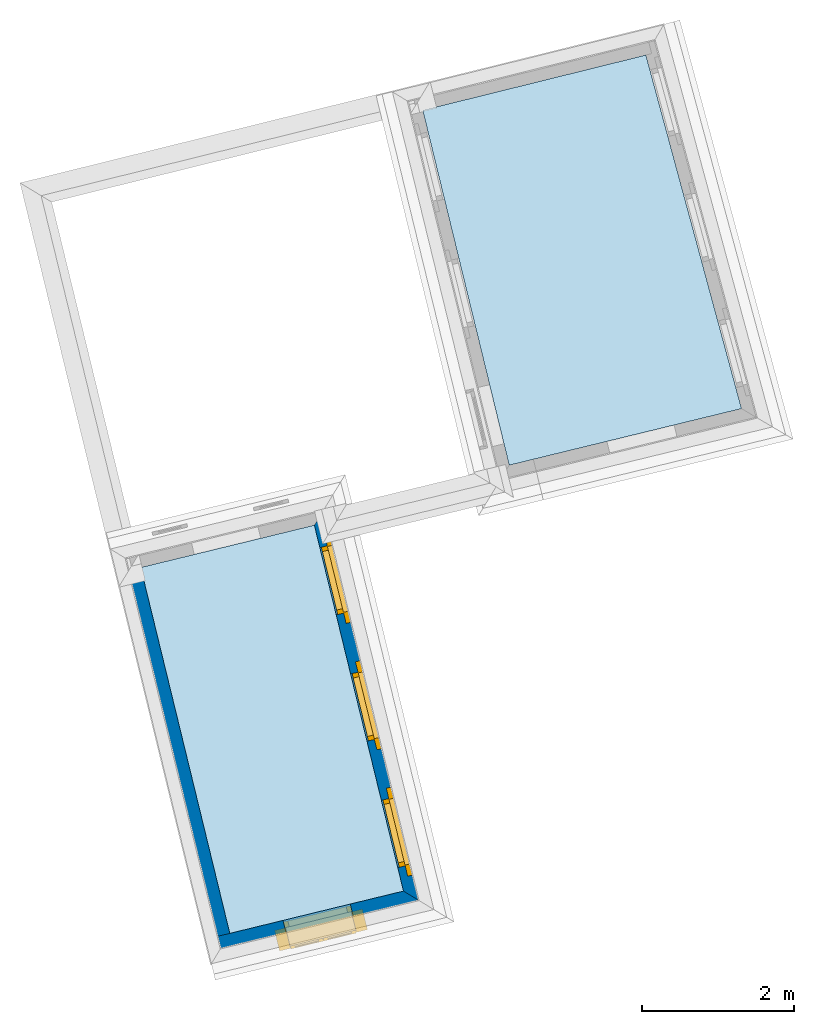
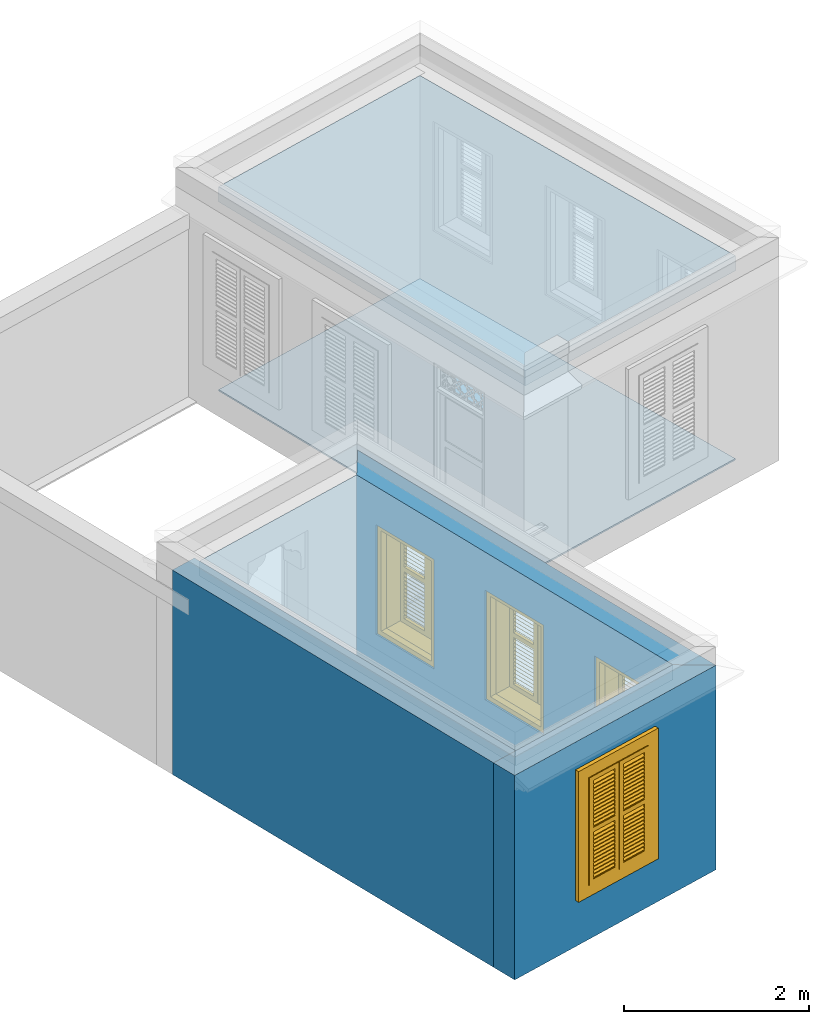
# One storey, part 1 of 7: 4 windows, 3 slabs, 3 walls, 4 openings.
"""IFC4 building model written with IfcOpenShell, lengths in metres."""

from ifc_helpers import new_model, si_unit, frame, origin, origin_with_axes, place, context, subcontext, project, spatial, polyline, outline, extrude, faceted_brep, source, transform, mapped, material, layer, layer_set, layer_usage, type_object, type_shapes, element, fill, save


model = new_model("IFC4")

# Units and contexts
model_context = context("Model", 3, world=origin_with_axes())
body_context = subcontext(model_context, "Body", "Model", "MODEL_VIEW")
ifc_project = project(units=[si_unit("PLANEANGLEUNIT", "RADIAN"), si_unit("MASSUNIT", "GRAM", prefix="KILO"), si_unit("FORCEUNIT", "NEWTON", prefix="KILO"), si_unit("LENGTHUNIT", "METRE"), si_unit("AREAUNIT", "SQUARE_METRE"), si_unit("VOLUMEUNIT", "CUBIC_METRE")], contexts=[model_context, model_context])

# Site, building, storey
site_placement = place(None, origin_with_axes())
site = spatial("IfcSite", under=ifc_project, at=site_placement, Name="Site plot-4", CompositionType="ELEMENT")
building_placement = place(None, origin_with_axes())
building = spatial("IfcBuilding", under=site, at=building_placement, Name="Building plot-4", CompositionType="ELEMENT")
storey_placement = place(None, frame((0.0, 0.0, 5.4), z_axis=(0.0, 0.0, 1.0), x_axis=(1.0, 0.0, 0.0)))
storey = spatial("IfcBuildingStorey", under=building, at=storey_placement, Name="plot-4 2", CompositionType="ELEMENT", Elevation=5.4)

# Slabs
slab_1_placement = place(storey_placement, frame((22.3297005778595, 20.3816846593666, 2.5)))
element("IfcSlab", 1, at=slab_1_placement, inside=storey, Name="My Slab", ObjectType="Slab", PredefinedType="FLOOR", context=body_context, shape_type="SweptSolid", body=[
    extrude(outline(polyline([(0.0, 0.0), (1.13606950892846, -4.66513942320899), (4.18996666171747, -3.92144472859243), (2.93260132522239, 0.725816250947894), (0.0, 0.0)])), origin_with_axes(), (0.0, 0.0, 1.0), 0.2),
])
slab_2_placement = place(storey_placement, frame((22.3297005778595, 20.3816846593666, 0.0)))
element("IfcSlab", 2, at=slab_2_placement, inside=storey, Name="My Slab", ObjectType="Slab", PredefinedType="FLOOR", context=body_context, shape_type="SweptSolid", body=[
    extrude(outline(polyline([(0.0, 0.0), (1.13606950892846, -4.66513942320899), (4.18996666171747, -3.92144472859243), (2.93260132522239, 0.725816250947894), (0.0, 0.0)])), origin_with_axes(), (0.0, 0.0, 1.0), 0.02),
])
slab_3_placement = place(storey_placement, frame((19.7935242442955, 9.56317406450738, 2.5)))
element("IfcSlab", 3, at=slab_3_placement, inside=storey, Name="My Slab", ObjectType="Slab", PredefinedType="FLOOR", context=body_context, shape_type="SweptSolid", body=[
    extrude(outline(polyline([(0.0, 0.0), (2.28328997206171, 0.556033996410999), (1.11213475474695, 5.3652488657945), (-1.17115521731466, 4.80921486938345), (0.0, 0.0)])), origin_with_axes(), (0.0, 0.0, 1.0), 0.2),
])

# Wall, opening, window
ifc_material_1 = material(Name="Masonry")
ifc_layer_1 = layer(ifc_material_1, 0.33, ventilated=False)
ifc_layer_set_1 = layer_set([ifc_layer_1], Name="exterior_0.08_0.25")
ifc_layer_usage_1 = layer_usage(ifc_layer_set_1, "AXIS2", "POSITIVE", -0.25)
wall_type_1 = type_object("IfcWallType", Name="exterior_0.08_0.25", PredefinedType="SOLIDWALL", material=ifc_layer_set_1)
wall_1_placement = place(storey_placement, frame((19.7347245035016, 9.46651698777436, 0.0), z_axis=(0.0, 0.0, 1.0), x_axis=(0.971605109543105, 0.236608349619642, 0.0)))
wall_1 = element("IfcWall", 4, at=wall_1_placement, inside=storey, type_object=wall_type_1, material=ifc_layer_usage_1, Name="exterior", context=body_context, shape_type="SweptSolid", body=[
    extrude(outline(polyline([(-0.250000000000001, 0.0799999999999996), (-0.25, -0.250000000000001), (2.7600184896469, -0.250000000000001), (2.43001848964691, 0.0800000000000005), (-0.250000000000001, 0.0799999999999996)])), origin_with_axes(), (0.0, 0.0, 1.0), 2.7),
])
opening_1_placement = place(wall_1_placement, frame((0.800009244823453, 0.0, 0.75)))
opening_1 = element("IfcOpeningElement", 5, at=opening_1_placement, cuts=wall_1, Name="My Opening", ObjectType="Opening", context=body_context, shape_type="SweptSolid", body=[
    extrude(outline(polyline([(0.0, -0.27), (0.91, -0.270000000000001), (0.909999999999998, 1.1), (-1.55431223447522e-15, 1.1), (0.0, -0.27)])), origin_with_axes(), (0.0, 0.0, 1.0), 1.445),
])
window_type = type_object("IfcWindowType", Name="shuttered_shorter", PartitioningType="DOUBLE_PANEL_HORIZONTAL", PredefinedType="NOTDEFINED")
shared_shape = source(origin(), body_context, "Body", "Brep", [
    faceted_brep([(0.393, 0.0, 0.622), (0.074, 0.0, 0.622), (0.074, 0.0, 0.632), (0.393, 0.0, 0.632), (0.074, -0.04, 0.592), (0.393, -0.04, 0.592), (0.393, -0.04, 0.582), (0.074, -0.04, 0.582), (0.517, 0.0, 0.682), (0.836, 0.0, 0.682), (0.836, 0.0, 0.672), (0.517, 0.0, 0.672), (0.517, -0.04, 0.642), (0.836, -0.04, 0.642), (0.836, -0.04, 0.632), (0.517, -0.04, 0.632), (0.517, 0.0, 0.632), (0.836, 0.0, 0.632), (0.836, 0.0, 0.622), (0.517, 0.0, 0.622), (0.517, -0.04, 0.592), (0.836, -0.04, 0.592), (0.836, -0.04, 0.582), (0.517, -0.04, 0.582), (0.517, 0.0, 0.232), (0.836, 0.0, 0.232), (0.836, 0.0, 0.222), (0.517, 0.0, 0.222), (0.517, -0.04, 0.192), (0.836, -0.04, 0.192), (0.836, -0.04, 0.182), (0.517, -0.04, 0.182), (0.517, 0.0, 0.532), (0.836, 0.0, 0.532), (0.836, 0.0, 0.522), (0.517, 0.0, 0.522), (0.517, -0.04, 0.492), (0.836, -0.04, 0.492), (0.836, -0.04, 0.482), (0.517, -0.04, 0.482), (0.517, 0.0, 0.482), (0.836, 0.0, 0.482), (0.836, 0.0, 0.472), (0.517, 0.0, 0.472), (0.517, -0.04, 0.442), (0.836, -0.04, 0.442), (0.836, -0.04, 0.432), (0.517, -0.04, 0.432), (0.517, 0.0, 0.582), (0.836, 0.0, 0.582), (0.836, 0.0, 0.572), (0.517, 0.0, 0.572), (0.517, -0.04, 0.542), (0.836, -0.04, 0.542), (0.836, -0.04, 0.532), (0.517, -0.04, 0.532), (0.517, 0.0, 0.182), (0.836, 0.0, 0.182), (0.836, 0.0, 0.172), (0.517, 0.0, 0.172), (0.517, -0.04, 0.142), (0.836, -0.04, 0.142), (0.836, -0.04, 0.132), (0.517, -0.04, 0.132), (0.517, 0.0, 0.382), (0.836, 0.0, 0.382), (0.836, 0.0, 0.372), (0.517, 0.0, 0.372), (0.517, -0.04, 0.342), (0.836, -0.04, 0.342), (0.836, -0.04, 0.332), (0.517, -0.04, 0.332), (0.517, 0.0, 0.432), (0.836, 0.0, 0.432), (0.836, 0.0, 0.422), (0.517, 0.0, 0.422), (0.517, -0.04, 0.392), (0.836, -0.04, 0.392), (0.836, -0.04, 0.382), (0.517, -0.04, 0.382), (0.517, 0.0, 0.132), (0.836, 0.0, 0.132), (0.836, 0.0, 0.122), (0.517, 0.0, 0.122), (0.517, -0.04, 0.092), (0.836, -0.04, 0.092), (0.836, -0.04, 0.082), (0.517, -0.04, 0.082), (0.517, 0.0, 0.282), (0.836, 0.0, 0.282), (0.836, 0.0, 0.272), (0.517, 0.0, 0.272), (0.517, -0.04, 0.242), (0.836, -0.04, 0.242), (0.836, -0.04, 0.232), (0.517, -0.04, 0.232), (0.517, 0.0, 0.332), (0.836, 0.0, 0.332), (0.836, 0.0, 0.322), (0.517, 0.0, 0.322), (0.517, -0.04, 0.292), (0.836, -0.04, 0.292), (0.836, -0.04, 0.282), (0.517, -0.04, 0.282), (0.517, 0.0, 1.362667), (0.836, 0.0, 1.362667), (0.836, 0.0, 1.352667), (0.517, 0.0, 1.352667), (0.517, -0.04, 1.322667), (0.836, -0.04, 1.322667), (0.836, -0.04, 1.312667), (0.517, -0.04, 1.312667), (0.517, 0.0, 1.312667), (0.836, 0.0, 1.312667), (0.836, 0.0, 1.302667), (0.517, 0.0, 1.302667), (0.517, -0.04, 1.272667), (0.836, -0.04, 1.272667), (0.836, -0.04, 1.262667), (0.517, -0.04, 1.262667), (0.517, 0.0, 0.912667), (0.836, 0.0, 0.912667), (0.836, 0.0, 0.902667), (0.517, 0.0, 0.902667), (0.517, -0.04, 0.872667), (0.836, -0.04, 0.872667), (0.836, -0.04, 0.862667), (0.517, -0.04, 0.862667), (0.517, 0.0, 1.212667), (0.836, 0.0, 1.212667), (0.836, 0.0, 1.202667), (0.517, 0.0, 1.202667), (0.517, -0.04, 1.172667), (0.836, -0.04, 1.172667), (0.836, -0.04, 1.162667), (0.517, -0.04, 1.162667), (0.517, 0.0, 1.162667), (0.836, 0.0, 1.162667), (0.836, 0.0, 1.152667), (0.517, 0.0, 1.152667), (0.517, -0.04, 1.122667), (0.836, -0.04, 1.122667), (0.836, -0.04, 1.112667), (0.517, -0.04, 1.112667), (0.517, 0.0, 1.262667), (0.836, 0.0, 1.262667), (0.836, 0.0, 1.252667), (0.517, 0.0, 1.252667), (0.517, -0.04, 1.222667), (0.836, -0.04, 1.222667), (0.836, -0.04, 1.212667), (0.517, -0.04, 1.212667), (0.517, 0.0, 0.862667), (0.836, 0.0, 0.862667), (0.836, 0.0, 0.852667), (0.517, 0.0, 0.852667), (0.517, -0.04, 0.822667), (0.836, -0.04, 0.822667), (0.836, -0.04, 0.812667), (0.517, -0.04, 0.812667), (0.517, 0.0, 1.062667), (0.836, 0.0, 1.062667), (0.836, 0.0, 1.052667), (0.517, 0.0, 1.052667), (0.517, -0.04, 1.022667), (0.836, -0.04, 1.022667), (0.836, -0.04, 1.012667), (0.517, -0.04, 1.012667), (0.517, 0.0, 1.112667), (0.836, 0.0, 1.112667), (0.836, 0.0, 1.102667), (0.517, 0.0, 1.102667), (0.517, -0.04, 1.072667), (0.836, -0.04, 1.072667), (0.836, -0.04, 1.062667), (0.517, -0.04, 1.062667), (0.517, 0.0, 0.812667), (0.836, 0.0, 0.812667), (0.836, 0.0, 0.802667), (0.517, 0.0, 0.802667), (0.517, -0.04, 0.772667), (0.836, -0.04, 0.772667), (0.836, -0.04, 0.762667), (0.517, -0.04, 0.762667), (0.517, 0.0, 0.962667), (0.836, 0.0, 0.962667), (0.836, 0.0, 0.952667), (0.517, 0.0, 0.952667), (0.517, -0.04, 0.922667), (0.836, -0.04, 0.922667), (0.836, -0.04, 0.912667), (0.517, -0.04, 0.912667), (0.517, 0.0, 1.012667), (0.836, 0.0, 1.012667), (0.836, 0.0, 1.002667), (0.517, 0.0, 1.002667), (0.517, -0.04, 0.972667), (0.836, -0.04, 0.972667), (0.836, -0.04, 0.962667), (0.517, -0.04, 0.962667), (0.074, 0.0, 0.682), (0.393, 0.0, 0.682), (0.393, 0.0, 0.672), (0.074, 0.0, 0.672), (0.074, -0.04, 0.642), (0.393, -0.04, 0.642), (0.393, -0.04, 0.632), (0.074, -0.04, 0.632), (0.074, 0.0, 0.232), (0.393, 0.0, 0.232), (0.393, 0.0, 0.222), (0.074, 0.0, 0.222), (0.074, -0.04, 0.192), (0.393, -0.04, 0.192), (0.393, -0.04, 0.182), (0.074, -0.04, 0.182), (0.074, 0.0, 0.532), (0.393, 0.0, 0.532), (0.393, 0.0, 0.522), (0.074, 0.0, 0.522), (0.074, -0.04, 0.492), (0.393, -0.04, 0.492), (0.393, -0.04, 0.482), (0.074, -0.04, 0.482), (0.074, 0.0, 0.482), (0.393, 0.0, 0.482), (0.393, 0.0, 0.472), (0.074, 0.0, 0.472), (0.074, -0.04, 0.442), (0.393, -0.04, 0.442), (0.393, -0.04, 0.432), (0.074, -0.04, 0.432), (0.074, 0.0, 0.582), (0.393, 0.0, 0.582), (0.393, 0.0, 0.572), (0.074, 0.0, 0.572), (0.074, -0.04, 0.542), (0.393, -0.04, 0.542), (0.393, -0.04, 0.532), (0.074, -0.04, 0.532), (0.074, 0.0, 0.182), (0.393, 0.0, 0.182), (0.393, 0.0, 0.172), (0.074, 0.0, 0.172), (0.074, -0.04, 0.142), (0.393, -0.04, 0.142), (0.393, -0.04, 0.132), (0.074, -0.04, 0.132), (0.074, 0.0, 0.382), (0.393, 0.0, 0.382), (0.393, 0.0, 0.372), (0.074, 0.0, 0.372), (0.074, -0.04, 0.342), (0.393, -0.04, 0.342), (0.393, -0.04, 0.332), (0.074, -0.04, 0.332), (0.074, 0.0, 0.432), (0.393, 0.0, 0.432), (0.393, 0.0, 0.422), (0.074, 0.0, 0.422), (0.074, -0.04, 0.392), (0.393, -0.04, 0.392), (0.393, -0.04, 0.382), (0.074, -0.04, 0.382), (0.074, 0.0, 0.132), (0.393, 0.0, 0.132), (0.393, 0.0, 0.122), (0.074, 0.0, 0.122), (0.074, -0.04, 0.092), (0.393, -0.04, 0.092), (0.393, -0.04, 0.082), (0.074, -0.04, 0.082), (0.074, 0.0, 0.282), (0.393, 0.0, 0.282), (0.393, 0.0, 0.272), (0.074, 0.0, 0.272), (0.074, -0.04, 0.242), (0.393, -0.04, 0.242), (0.393, -0.04, 0.232), (0.074, -0.04, 0.232), (0.074, 0.0, 0.332), (0.393, 0.0, 0.332), (0.393, 0.0, 0.322), (0.074, 0.0, 0.322), (0.074, -0.04, 0.292), (0.393, -0.04, 0.292), (0.393, -0.04, 0.282), (0.074, -0.04, 0.282), (0.074, 0.0, 1.362667), (0.393, 0.0, 1.362667), (0.393, 0.0, 1.352667), (0.074, 0.0, 1.352667), (0.074, -0.04, 1.322667), (0.393, -0.04, 1.322667), (0.393, -0.04, 1.312667), (0.074, -0.04, 1.312667), (0.074, 0.0, 1.312667), (0.393, 0.0, 1.312667), (0.393, 0.0, 1.302667), (0.074, 0.0, 1.302667), (0.074, -0.04, 1.272667), (0.393, -0.04, 1.272667), (0.393, -0.04, 1.262667), (0.074, -0.04, 1.262667), (0.074, 0.0, 0.912667), (0.393, 0.0, 0.912667), (0.393, 0.0, 0.902667), (0.074, 0.0, 0.902667), (0.074, -0.04, 0.872667), (0.393, -0.04, 0.872667), (0.393, -0.04, 0.862667), (0.074, -0.04, 0.862667), (0.074, 0.0, 1.212667), (0.393, 0.0, 1.212667), (0.393, 0.0, 1.202667), (0.074, 0.0, 1.202667), (0.074, -0.04, 1.172667), (0.393, -0.04, 1.172667), (0.393, -0.04, 1.162667), (0.074, -0.04, 1.162667), (0.074, 0.0, 1.162667), (0.393, 0.0, 1.162667), (0.393, 0.0, 1.152667), (0.074, 0.0, 1.152667), (0.074, -0.04, 1.122667), (0.393, -0.04, 1.122667), (0.393, -0.04, 1.112667), (0.074, -0.04, 1.112667), (0.074, 0.0, 1.262667), (0.393, 0.0, 1.262667), (0.393, 0.0, 1.252667), (0.074, 0.0, 1.252667), (0.074, -0.04, 1.222667), (0.393, -0.04, 1.222667), (0.393, -0.04, 1.212667), (0.074, -0.04, 1.212667), (0.074, 0.0, 0.862667), (0.393, 0.0, 0.862667), (0.393, 0.0, 0.852667), (0.074, 0.0, 0.852667), (0.074, -0.04, 0.822667), (0.393, -0.04, 0.822667), (0.393, -0.04, 0.812667), (0.074, -0.04, 0.812667), (0.074, 0.0, 1.062667), (0.393, 0.0, 1.062667), (0.393, 0.0, 1.052667), (0.074, 0.0, 1.052667), (0.074, -0.04, 1.022667), (0.393, -0.04, 1.022667), (0.393, -0.04, 1.012667), (0.074, -0.04, 1.012667), (0.074, 0.0, 1.112667), (0.393, 0.0, 1.112667), (0.393, 0.0, 1.102667), (0.074, 0.0, 1.102667), (0.074, -0.04, 1.072667), (0.393, -0.04, 1.072667), (0.393, -0.04, 1.062667), (0.074, -0.04, 1.062667), (0.074, 0.0, 0.812667), (0.393, 0.0, 0.812667), (0.393, 0.0, 0.802667), (0.074, 0.0, 0.802667), (0.074, -0.04, 0.772667), (0.393, -0.04, 0.772667), (0.393, -0.04, 0.762667), (0.074, -0.04, 0.762667), (0.074, 0.0, 0.962667), (0.393, 0.0, 0.962667), (0.393, 0.0, 0.952667), (0.074, 0.0, 0.952667), (0.074, -0.04, 0.922667), (0.393, -0.04, 0.922667), (0.393, -0.04, 0.912667), (0.074, -0.04, 0.912667), (0.074, 0.0, 1.012667), (0.393, 0.0, 1.012667), (0.393, 0.0, 1.002667), (0.074, 0.0, 1.002667), (0.074, -0.04, 0.972667), (0.393, -0.04, 0.972667), (0.393, -0.04, 0.962667), (0.074, -0.04, 0.962667), (0.517, -0.04, 0.072), (0.457, -0.04, 0.012), (0.896, -0.04, 0.012), (0.836, -0.04, 0.072), (0.457, -0.04, 0.692667), (0.517, -0.04, 0.692667), (0.457, 0.0, 0.012), (0.896, 0.0, 0.012), (0.836, -0.04, 0.692667), (0.896, -0.04, 0.692667), (0.836, 0.0, 0.072), (0.517, 0.0, 0.072), (0.457, 0.0, 0.692667), (0.517, 0.0, 0.692667), (0.517, -0.04, 0.752666), (0.457, -0.04, 0.752666), (0.896, 0.0, 0.692667), (0.836, 0.0, 0.692667), (0.836, -0.04, 0.752666), (0.896, -0.04, 0.752666), (0.457, 0.0, 0.752666), (0.457, -0.04, 1.433333), (0.517, -0.04, 1.373333), (0.896, 0.0, 0.752666), (0.836, -0.04, 1.373333), (0.896, -0.04, 1.433333), (0.457, 0.0, 1.433333), (0.517, 0.0, 0.752666), (0.836, 0.0, 0.752666), (0.517, 0.0, 1.373333), (0.896, 0.0, 1.433333), (0.836, 0.0, 1.373333), (0.074, -0.04, 0.072), (0.014, -0.04, 0.012), (0.453, -0.04, 0.012), (0.393, -0.04, 0.072), (0.014, -0.04, 0.692667), (0.074, -0.04, 0.692667), (0.014, 0.0, 0.012), (0.453, 0.0, 0.012), (0.393, -0.04, 0.692667), (0.453, -0.04, 0.692667), (0.393, 0.0, 0.072), (0.074, 0.0, 0.072), (0.014, 0.0, 0.692667), (0.074, 0.0, 0.692667), (0.074, -0.04, 0.752666), (0.014, -0.04, 0.752666), (0.453, 0.0, 0.692667), (0.393, 0.0, 0.692667), (0.393, -0.04, 0.752666), (0.453, -0.04, 0.752666), (0.014, 0.0, 0.752666), (0.014, -0.04, 1.433333), (0.074, -0.04, 1.373333), (0.453, 0.0, 0.752666), (0.393, -0.04, 1.373333), (0.453, -0.04, 1.433333), (0.014, 0.0, 1.433333), (0.074, 0.0, 0.752666), (0.393, 0.0, 0.752666), (0.074, 0.0, 1.373333), (0.453, 0.0, 1.433333), (0.393, 0.0, 1.373333), (0.0, 0.33, 1.445), (0.91, 0.33, 1.445), (0.85, 0.33, 1.385), (0.06, 0.33, 1.385), (0.91, 0.25, 1.445), (0.0, 0.25, 1.445), (0.91, 0.25, 1.445), (0.85, 0.33, 0.06), (0.91, 0.33, 0.0), (0.85, 0.25, 1.385), (0.06, 0.25, 1.385), (0.0, 0.33, 0.0), (0.06, 0.33, 0.06), (0.0, 0.25, 0.0), (0.91, 0.25, 0.0), (0.85, 0.25, 0.06), (0.06, 0.25, 0.06), (1.05, 0.25, 1.585), (-0.14, 0.25, 1.585), (-0.14, -0.03, 1.585), (1.05, -0.03, 1.585), (0.9, -0.03, 1.435), (0.01, -0.03, 1.435), (0.01, 0.25, 1.435), (0.9, 0.25, 1.435), (0.9, 0.25, 0.01), (0.9, -0.03, 0.01), (1.05, -0.03, -0.14), (1.05, 0.25, -0.14), (0.01, -0.03, 0.01), (0.01, 0.25, 0.01), (-0.14, -0.03, -0.14), (-0.14, 0.25, -0.14)], [[[0, 1, 2, 3]], [[4, 5, 3, 2]], [[5, 6, 0, 3]], [[1, 0, 6, 7]], [[2, 1, 7, 4]], [[5, 4, 7, 6]], [[8, 9, 10, 11]], [[12, 13, 9, 8]], [[13, 14, 10, 9]], [[14, 15, 11, 10]], [[15, 12, 8, 11]], [[13, 12, 15, 14]], [[16, 17, 18, 19]], [[20, 21, 17, 16]], [[21, 22, 18, 17]], [[22, 23, 19, 18]], [[23, 20, 16, 19]], [[21, 20, 23, 22]], [[24, 25, 26, 27]], [[28, 29, 25, 24]], [[29, 30, 26, 25]], [[30, 31, 27, 26]], [[31, 28, 24, 27]], [[29, 28, 31, 30]], [[32, 33, 34, 35]], [[36, 37, 33, 32]], [[37, 38, 34, 33]], [[38, 39, 35, 34]], [[39, 36, 32, 35]], [[37, 36, 39, 38]], [[40, 41, 42, 43]], [[44, 45, 41, 40]], [[45, 46, 42, 41]], [[46, 47, 43, 42]], [[47, 44, 40, 43]], [[45, 44, 47, 46]], [[48, 49, 50, 51]], [[52, 53, 49, 48]], [[53, 54, 50, 49]], [[54, 55, 51, 50]], [[55, 52, 48, 51]], [[53, 52, 55, 54]], [[56, 57, 58, 59]], [[60, 61, 57, 56]], [[61, 62, 58, 57]], [[62, 63, 59, 58]], [[63, 60, 56, 59]], [[61, 60, 63, 62]], [[64, 65, 66, 67]], [[68, 69, 65, 64]], [[69, 70, 66, 65]], [[70, 71, 67, 66]], [[71, 68, 64, 67]], [[69, 68, 71, 70]], [[72, 73, 74, 75]], [[76, 77, 73, 72]], [[77, 78, 74, 73]], [[78, 79, 75, 74]], [[79, 76, 72, 75]], [[77, 76, 79, 78]], [[80, 81, 82, 83]], [[84, 85, 81, 80]], [[85, 86, 82, 81]], [[86, 87, 83, 82]], [[87, 84, 80, 83]], [[85, 84, 87, 86]], [[88, 89, 90, 91]], [[92, 93, 89, 88]], [[93, 94, 90, 89]], [[94, 95, 91, 90]], [[95, 92, 88, 91]], [[93, 92, 95, 94]], [[96, 97, 98, 99]], [[100, 101, 97, 96]], [[101, 102, 98, 97]], [[102, 103, 99, 98]], [[103, 100, 96, 99]], [[101, 100, 103, 102]], [[104, 105, 106, 107]], [[108, 109, 105, 104]], [[109, 110, 106, 105]], [[110, 111, 107, 106]], [[111, 108, 104, 107]], [[109, 108, 111, 110]], [[112, 113, 114, 115]], [[116, 117, 113, 112]], [[117, 118, 114, 113]], [[118, 119, 115, 114]], [[119, 116, 112, 115]], [[117, 116, 119, 118]], [[120, 121, 122, 123]], [[124, 125, 121, 120]], [[125, 126, 122, 121]], [[126, 127, 123, 122]], [[127, 124, 120, 123]], [[125, 124, 127, 126]], [[128, 129, 130, 131]], [[132, 133, 129, 128]], [[133, 134, 130, 129]], [[134, 135, 131, 130]], [[135, 132, 128, 131]], [[133, 132, 135, 134]], [[136, 137, 138, 139]], [[140, 141, 137, 136]], [[141, 142, 138, 137]], [[142, 143, 139, 138]], [[139, 143, 140, 136]], [[141, 140, 143, 142]], [[144, 145, 146, 147]], [[148, 149, 145, 144]], [[149, 150, 146, 145]], [[150, 151, 147, 146]], [[151, 148, 144, 147]], [[149, 148, 151, 150]], [[152, 153, 154, 155]], [[156, 157, 153, 152]], [[157, 158, 154, 153]], [[158, 159, 155, 154]], [[159, 156, 152, 155]], [[157, 156, 159, 158]], [[160, 161, 162, 163]], [[164, 165, 161, 160]], [[165, 166, 162, 161]], [[166, 167, 163, 162]], [[167, 164, 160, 163]], [[165, 164, 167, 166]], [[168, 169, 170, 171]], [[172, 173, 169, 168]], [[173, 174, 170, 169]], [[174, 175, 171, 170]], [[175, 172, 168, 171]], [[173, 172, 175, 174]], [[176, 177, 178, 179]], [[180, 181, 177, 176]], [[181, 182, 178, 177]], [[182, 183, 179, 178]], [[183, 180, 176, 179]], [[181, 180, 183, 182]], [[184, 185, 186, 187]], [[188, 189, 185, 184]], [[189, 190, 186, 185]], [[190, 191, 187, 186]], [[191, 188, 184, 187]], [[189, 188, 191, 190]], [[192, 193, 194, 195]], [[196, 197, 193, 192]], [[197, 198, 194, 193]], [[198, 199, 195, 194]], [[199, 196, 192, 195]], [[197, 196, 199, 198]], [[200, 201, 202, 203]], [[204, 205, 201, 200]], [[205, 206, 202, 201]], [[206, 207, 203, 202]], [[207, 204, 200, 203]], [[205, 204, 207, 206]], [[208, 209, 210, 211]], [[212, 213, 209, 208]], [[213, 214, 210, 209]], [[214, 215, 211, 210]], [[215, 212, 208, 211]], [[213, 212, 215, 214]], [[216, 217, 218, 219]], [[220, 221, 217, 216]], [[221, 222, 218, 217]], [[222, 223, 219, 218]], [[223, 220, 216, 219]], [[221, 220, 223, 222]], [[224, 225, 226, 227]], [[228, 229, 225, 224]], [[229, 230, 226, 225]], [[230, 231, 227, 226]], [[231, 228, 224, 227]], [[229, 228, 231, 230]], [[232, 233, 234, 235]], [[236, 237, 233, 232]], [[237, 238, 234, 233]], [[238, 239, 235, 234]], [[239, 236, 232, 235]], [[237, 236, 239, 238]], [[240, 241, 242, 243]], [[244, 245, 241, 240]], [[245, 246, 242, 241]], [[246, 247, 243, 242]], [[247, 244, 240, 243]], [[245, 244, 247, 246]], [[248, 249, 250, 251]], [[252, 253, 249, 248]], [[253, 254, 250, 249]], [[254, 255, 251, 250]], [[255, 252, 248, 251]], [[253, 252, 255, 254]], [[256, 257, 258, 259]], [[260, 261, 257, 256]], [[261, 262, 258, 257]], [[262, 263, 259, 258]], [[263, 260, 256, 259]], [[261, 260, 263, 262]], [[264, 265, 266, 267]], [[268, 269, 265, 264]], [[269, 270, 266, 265]], [[270, 271, 267, 266]], [[271, 268, 264, 267]], [[269, 268, 271, 270]], [[272, 273, 274, 275]], [[276, 277, 273, 272]], [[277, 278, 274, 273]], [[278, 279, 275, 274]], [[279, 276, 272, 275]], [[277, 276, 279, 278]], [[280, 281, 282, 283]], [[284, 285, 281, 280]], [[285, 286, 282, 281]], [[286, 287, 283, 282]], [[287, 284, 280, 283]], [[285, 284, 287, 286]], [[288, 289, 290, 291]], [[292, 293, 289, 288]], [[293, 294, 290, 289]], [[294, 295, 291, 290]], [[295, 292, 288, 291]], [[293, 292, 295, 294]], [[296, 297, 298, 299]], [[300, 301, 297, 296]], [[301, 302, 298, 297]], [[302, 303, 299, 298]], [[303, 300, 296, 299]], [[301, 300, 303, 302]], [[304, 305, 306, 307]], [[308, 309, 305, 304]], [[309, 310, 306, 305]], [[310, 311, 307, 306]], [[311, 308, 304, 307]], [[309, 308, 311, 310]], [[312, 313, 314, 315]], [[316, 317, 313, 312]], [[317, 318, 314, 313]], [[318, 319, 315, 314]], [[319, 316, 312, 315]], [[317, 316, 319, 318]], [[320, 321, 322, 323]], [[324, 325, 321, 320]], [[325, 326, 322, 321]], [[326, 327, 323, 322]], [[327, 324, 320, 323]], [[325, 324, 327, 326]], [[328, 329, 330, 331]], [[332, 333, 329, 328]], [[333, 334, 330, 329]], [[334, 335, 331, 330]], [[335, 332, 328, 331]], [[333, 332, 335, 334]], [[336, 337, 338, 339]], [[340, 341, 337, 336]], [[341, 342, 338, 337]], [[342, 343, 339, 338]], [[343, 340, 336, 339]], [[341, 340, 343, 342]], [[344, 345, 346, 347]], [[348, 349, 345, 344]], [[349, 350, 346, 345]], [[350, 351, 347, 346]], [[351, 348, 344, 347]], [[349, 348, 351, 350]], [[352, 353, 354, 355]], [[356, 357, 353, 352]], [[357, 358, 354, 353]], [[358, 359, 355, 354]], [[359, 356, 352, 355]], [[357, 356, 359, 358]], [[360, 361, 362, 363]], [[364, 365, 361, 360]], [[365, 366, 362, 361]], [[366, 367, 363, 362]], [[367, 364, 360, 363]], [[365, 364, 367, 366]], [[368, 369, 370, 371]], [[372, 373, 369, 368]], [[373, 374, 370, 369]], [[374, 375, 371, 370]], [[375, 372, 368, 371]], [[373, 372, 375, 374]], [[376, 377, 378, 379]], [[380, 381, 377, 376]], [[381, 382, 378, 377]], [[382, 383, 379, 378]], [[383, 380, 376, 379]], [[381, 380, 383, 382]], [[384, 385, 386, 387]], [[388, 385, 384, 389]], [[390, 391, 386, 385]], [[392, 387, 386, 393]], [[384, 387, 394, 395]], [[390, 385, 388, 396]], [[389, 384, 395, 397]], [[389, 398, 399, 388]], [[390, 395, 394, 391]], [[400, 393, 386, 391]], [[387, 392, 401, 394]], [[402, 392, 393, 403]], [[396, 388, 399, 404]], [[390, 396, 397, 395]], [[392, 389, 397, 401]], [[398, 389, 392, 402]], [[405, 399, 398, 406]], [[394, 401, 400, 391]], [[407, 403, 393, 400]], [[408, 402, 403, 409]], [[404, 399, 405, 410]], [[411, 397, 396, 404]], [[397, 411, 412, 401]], [[398, 402, 412, 411]], [[406, 398, 411, 413]], [[405, 406, 408, 409]], [[401, 412, 407, 400]], [[414, 409, 403, 407]], [[402, 408, 415, 412]], [[405, 409, 414, 410]], [[404, 410, 413, 411]], [[408, 406, 413, 415]], [[412, 415, 414, 407]], [[413, 410, 414, 415]], [[416, 417, 418, 419]], [[420, 417, 416, 421]], [[422, 423, 418, 417]], [[424, 419, 418, 425]], [[416, 419, 426, 427]], [[422, 417, 420, 428]], [[421, 416, 427, 429]], [[421, 430, 431, 420]], [[422, 427, 426, 423]], [[432, 425, 418, 423]], [[419, 424, 433, 426]], [[434, 424, 425, 435]], [[428, 420, 431, 436]], [[422, 428, 429, 427]], [[424, 421, 429, 433]], [[430, 421, 424, 434]], [[437, 431, 430, 438]], [[426, 433, 432, 423]], [[439, 435, 425, 432]], [[440, 434, 435, 441]], [[436, 431, 437, 442]], [[443, 429, 428, 436]], [[429, 443, 444, 433]], [[430, 434, 444, 443]], [[438, 430, 443, 445]], [[437, 438, 440, 441]], [[433, 444, 439, 432]], [[446, 441, 435, 439]], [[434, 440, 447, 444]], [[437, 441, 446, 442]], [[436, 442, 445, 443]], [[440, 438, 445, 447]], [[444, 447, 446, 439]], [[445, 442, 446, 447]], [[448, 449, 450, 451]], [[452, 449, 448]], [[448, 453, 454]], [[448, 454, 452]], [[455, 450, 449, 456]], [[451, 450, 457, 458]], [[459, 448, 451, 460]], [[448, 459, 461, 453]], [[454, 453, 458, 457]], [[462, 452, 454]], [[454, 457, 463]], [[454, 463, 462]], [[456, 449, 452, 462]], [[450, 455, 463, 457]], [[456, 459, 460, 455]], [[460, 451, 458, 464]], [[459, 456, 462, 461]], [[464, 458, 453, 461]], [[461, 462, 463, 464]], [[455, 460, 464, 463]], [[465, 466, 467, 468]], [[469, 470, 471, 472]], [[473, 474, 469, 472]], [[465, 468, 475, 476]], [[470, 477, 478, 471]], [[474, 473, 478, 477]], [[474, 477, 479, 475]], [[470, 467, 479, 477]], [[470, 469, 468, 467]], [[474, 475, 468, 469]], [[471, 478, 480, 466]], [[473, 472, 465, 476]], [[473, 476, 480, 478]], [[466, 465, 472, 471]], [[480, 476, 475, 479]], [[480, 479, 467, 466]]]),
])
type_shapes(window_type, [shared_shape])
window_1_placement = place(storey_placement, frame((20.5759018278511, 9.39347247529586, 0.75), z_axis=(0.0, 0.0, 1.0), x_axis=(0.884160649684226, 0.215313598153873, 0.0)))
window_1 = element("IfcWindow", 6, at=window_1_placement, inside=storey, type_object=window_type, Name="circulation sahn window", OverallHeight=1.445, OverallWidth=0.91, context=body_context, shape_type="MappedRepresentation", body=[
    mapped(shared_shape, transform((0.0, 0.0, 0.0), scale=1.0)),
])
fill(opening_1, window_1)

# Wall, openings, windows
wall_2_placement = place(storey_placement, frame((22.1734712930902, 10.0604083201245, 0.0), z_axis=(0.0, 0.0, 1.0), x_axis=(-0.236608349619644, 0.971605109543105, 0.0)))
wall_2 = element("IfcWall", 7, at=wall_2_placement, inside=storey, type_object=wall_type_1, material=ifc_layer_usage_1, Name="exterior", context=body_context, shape_type="SweptSolid", body=[
    extrude(outline(polyline([(0.0800000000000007, 0.0799999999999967), (-0.250000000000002, -0.25), (5.35976284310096, -0.249999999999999), (5.02976284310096, 0.0799999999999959), (0.0800000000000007, 0.0799999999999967)])), origin_with_axes(), (0.0, 0.0, 1.0), 2.7),
])
opening_2_placement = place(wall_2_placement, frame((0.396627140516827, 0.0, 0.75)))
opening_2 = element("IfcOpeningElement", 8, at=opening_2_placement, cuts=wall_2, Name="My Opening", ObjectType="Opening", context=body_context, shape_type="SweptSolid", body=[
    extrude(outline(polyline([(0.0, -0.27), (0.910000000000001, -0.27), (0.910000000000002, 1.1), (1.4432899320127e-15, 1.1), (0.0, -0.27)])), origin_with_axes(), (0.0, 0.0, 1.0), 1.445),
])
opening_3_placement = place(wall_2_placement, frame((2.10662714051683, 0.0, 0.75)))
opening_3 = element("IfcOpeningElement", 9, at=opening_3_placement, cuts=wall_2, Name="My Opening", ObjectType="Opening", context=body_context, shape_type="SweptSolid", body=[
    extrude(outline(polyline([(0.0, -0.269999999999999), (0.910000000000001, -0.269999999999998), (0.910000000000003, 1.1), (1.77635683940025e-15, 1.1), (0.0, -0.269999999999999)])), origin_with_axes(), (0.0, 0.0, 1.0), 1.445),
])
opening_4_placement = place(wall_2_placement, frame((3.81662714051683, 0.0, 0.75)))
opening_4 = element("IfcOpeningElement", 10, at=opening_4_placement, cuts=wall_2, Name="My Opening", ObjectType="Opening", context=body_context, shape_type="SweptSolid", body=[
    extrude(outline(polyline([(0.0, -0.270000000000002), (0.910000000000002, -0.270000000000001), (0.910000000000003, 1.1), (2.22044604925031e-15, 1.1), (0.0, -0.270000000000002)])), origin_with_axes(), (0.0, 0.0, 1.0), 1.445),
])
window_2_placement = place(storey_placement, frame((22.3419593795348, 10.5096575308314, 0.75), z_axis=(0.0, 0.0, 1.0), x_axis=(-0.215313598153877, 0.884160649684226, 0.0)))
window_2 = element("IfcWindow", 11, at=window_2_placement, inside=storey, type_object=window_type, Name="circulation outside window", OverallHeight=1.445, OverallWidth=0.91, context=body_context, shape_type="MappedRepresentation", body=[
    mapped(shared_shape, transform((0.0, 0.0, 0.0), scale=1.0)),
])
fill(opening_2, window_2)
window_3_placement = place(storey_placement, frame((21.9373591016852, 12.1711022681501, 0.75), z_axis=(0.0, 0.0, 1.0), x_axis=(-0.215313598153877, 0.884160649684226, 0.0)))
window_3 = element("IfcWindow", 12, at=window_3_placement, inside=storey, type_object=window_type, Name="circulation outside window", OverallHeight=1.445, OverallWidth=0.91, context=body_context, shape_type="MappedRepresentation", body=[
    mapped(shared_shape, transform((0.0, 0.0, 0.0), scale=1.0)),
])
fill(opening_3, window_3)
window_4_placement = place(storey_placement, frame((21.5327588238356, 13.8325470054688, 0.75), z_axis=(0.0, 0.0, 1.0), x_axis=(-0.215313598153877, 0.884160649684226, 0.0)))
window_4 = element("IfcWindow", 13, at=window_4_placement, inside=storey, type_object=window_type, Name="circulation outside window", OverallHeight=1.445, OverallWidth=0.91, context=body_context, shape_type="MappedRepresentation", body=[
    mapped(shared_shape, transform((0.0, 0.0, 0.0), scale=1.0)),
])
fill(opening_4, window_4)

# Wall
ifc_material_2 = material(Name="Masonry")
ifc_layer_2 = layer(ifc_material_2, 0.33, ventilated=False)
ifc_layer_set_2 = layer_set([ifc_layer_2], Name="party_0.08_0.25")
ifc_layer_usage_2 = layer_usage(ifc_layer_set_2, "AXIS2", "POSITIVE", -0.25)
wall_type_2 = type_object("IfcWallType", Name="party_0.08_0.25", PredefinedType="SOLIDWALL", material=ifc_layer_set_2)
wall_3_placement = place(storey_placement, frame((18.5257119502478, 14.4311886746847, 0.0), z_axis=(0.0, 0.0, 1.0), x_axis=(0.236608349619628, -0.971605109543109, 0.0)))
element("IfcWall", 14, at=wall_3_placement, inside=storey, type_object=wall_type_2, material=ifc_layer_usage_2, Name="party", context=body_context, shape_type="SweptSolid", body=[
    extrude(outline(polyline([(4.04257239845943e-17, 0.0799999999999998), (3.98164954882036e-16, -0.249999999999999), (5.10976284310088, -0.249999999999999), (5.10976284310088, 0.0799999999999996), (4.04257239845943e-17, 0.0799999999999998)])), origin_with_axes(), (0.0, 0.0, 1.0), 2.7),
])

save(model, "model.ifc")
